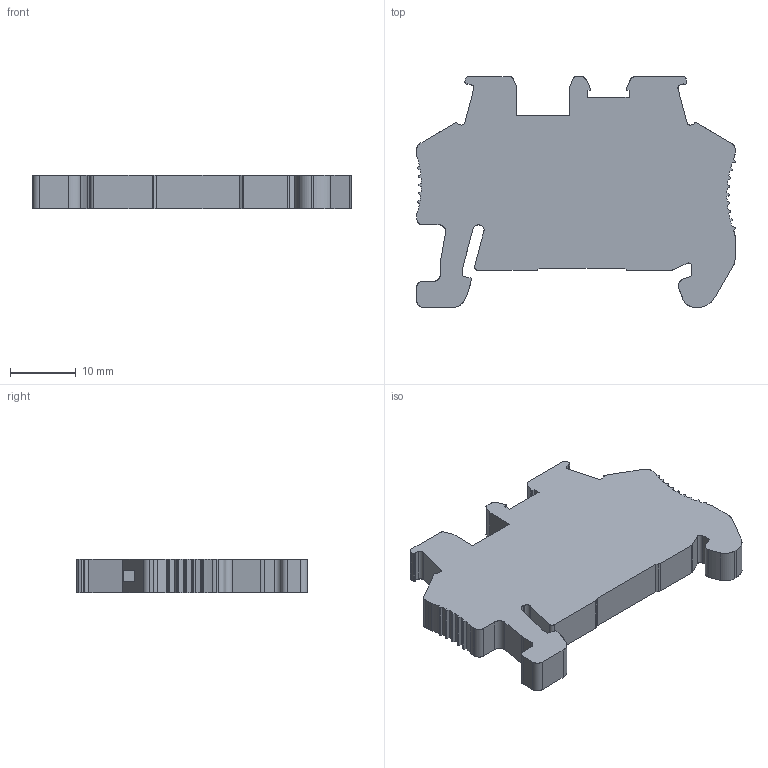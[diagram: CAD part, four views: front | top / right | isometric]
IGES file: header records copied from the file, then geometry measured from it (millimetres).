
Global section: file name: 3022276_clipfix_35_5-select.igs; native system: OneSpace Designer 3D IGES; preprocessor: 11.50A  18-Jul-2002; date: 20040310.085845; units: millimetre
Bounding box: 48.63 x 35.25 x 5.15 mm (x, y, z)
Surface area: 3850 mm2 (no closed solid volume)
Topology: 0 solids, 0 shells, 196 faces, 1539 edges, 1539 vertices
Faces by surface type: bspline 196
